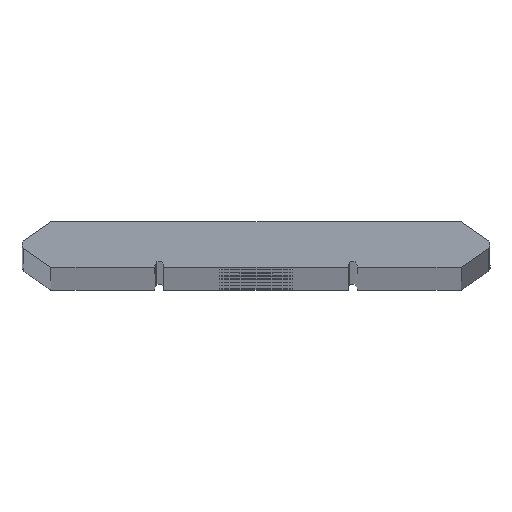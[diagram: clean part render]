
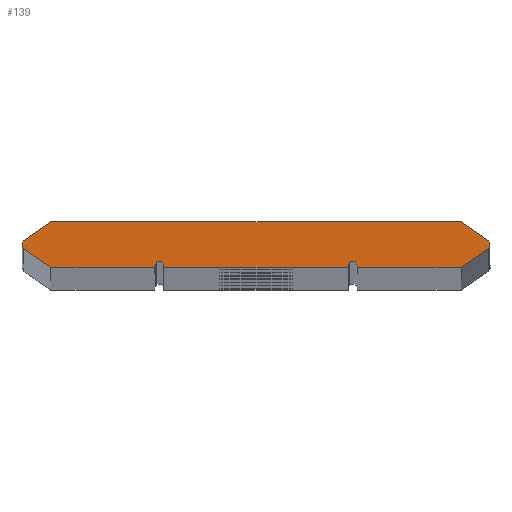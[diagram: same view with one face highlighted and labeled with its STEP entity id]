
A CAD part, top view. The second image highlights one B-rep face of the part: STEP entity #139.
In plain terms, the highlighted planar face has unit normal (0, 0, 1).
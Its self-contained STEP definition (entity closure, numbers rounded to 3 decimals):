
#139=ADVANCED_FACE('',(#349),#350,.F.);
#349=FACE_OUTER_BOUND('',#561,.T.);
#350=PLANE('',#562);
#561=EDGE_LOOP('',(#964,#965,#966,#967,#968,#969,#970,#971,#972,#973,#974,#975,#976,#977,#978,#979));
#562=AXIS2_PLACEMENT_3D('',#980,#981,#982);
#964=ORIENTED_EDGE('',*,*,#992,.F.);
#965=ORIENTED_EDGE('',*,*,#1059,.F.);
#966=ORIENTED_EDGE('',*,*,#1075,.F.);
#967=ORIENTED_EDGE('',*,*,#1077,.F.);
#968=ORIENTED_EDGE('',*,*,#1079,.F.);
#969=ORIENTED_EDGE('',*,*,#1081,.F.);
#970=ORIENTED_EDGE('',*,*,#1083,.F.);
#971=ORIENTED_EDGE('',*,*,#1085,.F.);
#972=ORIENTED_EDGE('',*,*,#1087,.F.);
#973=ORIENTED_EDGE('',*,*,#1089,.F.);
#974=ORIENTED_EDGE('',*,*,#1091,.F.);
#975=ORIENTED_EDGE('',*,*,#1093,.F.);
#976=ORIENTED_EDGE('',*,*,#1095,.F.);
#977=ORIENTED_EDGE('',*,*,#1097,.F.);
#978=ORIENTED_EDGE('',*,*,#1099,.F.);
#979=ORIENTED_EDGE('',*,*,#1011,.F.);
#980=CARTESIAN_POINT('',(24.922,0.,0.));
#981=DIRECTION('',(0.,0.0,-1.0));
#982=DIRECTION('',(0.0,1.0,0.0));
#992=EDGE_CURVE('',#1108,#1109,#1110,.T.);
#1011=EDGE_CURVE('',#1109,#1146,#1147,.T.);
#1059=EDGE_CURVE('',#1241,#1108,#1242,.T.);
#1075=EDGE_CURVE('',#1271,#1241,#1272,.T.);
#1077=EDGE_CURVE('',#1274,#1271,#1275,.T.);
#1079=EDGE_CURVE('',#1277,#1274,#1278,.T.);
#1081=EDGE_CURVE('',#1280,#1277,#1281,.T.);
#1083=EDGE_CURVE('',#1283,#1280,#1284,.T.);
#1085=EDGE_CURVE('',#1286,#1283,#1287,.T.);
#1087=EDGE_CURVE('',#1289,#1286,#1290,.T.);
#1089=EDGE_CURVE('',#1292,#1289,#1293,.T.);
#1091=EDGE_CURVE('',#1295,#1292,#1296,.T.);
#1093=EDGE_CURVE('',#1298,#1295,#1299,.T.);
#1095=EDGE_CURVE('',#1301,#1298,#1302,.T.);
#1097=EDGE_CURVE('',#1304,#1301,#1305,.T.);
#1099=EDGE_CURVE('',#1146,#1304,#1307,.T.);
#1108=VERTEX_POINT('',#1316);
#1109=VERTEX_POINT('',#1317);
#1110=LINE('',#1318,#1319);
#1146=VERTEX_POINT('',#1358);
#1147=LINE('',#1359,#1360);
#1241=VERTEX_POINT('',#1456);
#1242=CIRCLE('',#1457,0.498);
#1271=VERTEX_POINT('',#1497);
#1272=LINE('',#1498,#1499);
#1274=VERTEX_POINT('',#1502);
#1275=LINE('',#1503,#1504);
#1277=VERTEX_POINT('',#1507);
#1278=LINE('',#1508,#1509);
#1280=VERTEX_POINT('',#1512);
#1281=CIRCLE('',#1513,0.5);
#1283=VERTEX_POINT('',#1516);
#1284=LINE('',#1517,#1518);
#1286=VERTEX_POINT('',#1521);
#1287=LINE('',#1522,#1523);
#1289=VERTEX_POINT('',#1526);
#1290=LINE('',#1527,#1528);
#1292=VERTEX_POINT('',#1531);
#1293=CIRCLE('',#1532,0.5);
#1295=VERTEX_POINT('',#1535);
#1296=LINE('',#1536,#1537);
#1298=VERTEX_POINT('',#1540);
#1299=LINE('',#1541,#1542);
#1301=VERTEX_POINT('',#1545);
#1302=LINE('',#1546,#1547);
#1304=VERTEX_POINT('',#1550);
#1305=CIRCLE('',#1551,0.498);
#1307=LINE('',#1554,#1555);
#1316=CARTESIAN_POINT('',(-25.208,0.408,0.));
#1317=CARTESIAN_POINT('',(-22.27,2.465,0.));
#1318=CARTESIAN_POINT('',(-25.208,0.408,0.));
#1319=VECTOR('',#1568,1.0);
#1358=CARTESIAN_POINT('',(22.27,2.465,0.));
#1359=CARTESIAN_POINT('',(-22.27,2.465,0.));
#1360=VECTOR('',#1617,1.0);
#1456=CARTESIAN_POINT('',(-25.208,-0.408,0.));
#1457=AXIS2_PLACEMENT_3D('',#1755,#1756,#1757);
#1497=CARTESIAN_POINT('',(-22.27,-2.465,0.));
#1498=CARTESIAN_POINT('',(-22.27,-2.465,0.));
#1499=VECTOR('',#1781,1.0);
#1502=CARTESIAN_POINT('',(-11.0,-2.465,0.));
#1503=CARTESIAN_POINT('',(-11.0,-2.465,0.));
#1504=VECTOR('',#1783,1.0);
#1507=CARTESIAN_POINT('',(-11.0,-2.265,0.));
#1508=CARTESIAN_POINT('',(-11.0,-2.265,0.));
#1509=VECTOR('',#1785,1.0);
#1512=CARTESIAN_POINT('',(-10.0,-2.265,0.));
#1513=AXIS2_PLACEMENT_3D('',#1787,#1788,#1789);
#1516=CARTESIAN_POINT('',(-10.0,-2.465,0.));
#1517=CARTESIAN_POINT('',(-10.0,-2.465,0.));
#1518=VECTOR('',#1791,1.0);
#1521=CARTESIAN_POINT('',(10.0,-2.465,0.));
#1522=CARTESIAN_POINT('',(10.0,-2.465,0.));
#1523=VECTOR('',#1793,1.0);
#1526=CARTESIAN_POINT('',(10.0,-2.265,0.));
#1527=CARTESIAN_POINT('',(10.0,-2.265,0.));
#1528=VECTOR('',#1795,1.0);
#1531=CARTESIAN_POINT('',(11.0,-2.265,0.));
#1532=AXIS2_PLACEMENT_3D('',#1797,#1798,#1799);
#1535=CARTESIAN_POINT('',(11.0,-2.465,0.));
#1536=CARTESIAN_POINT('',(11.0,-2.465,0.));
#1537=VECTOR('',#1801,1.0);
#1540=CARTESIAN_POINT('',(22.27,-2.465,0.));
#1541=CARTESIAN_POINT('',(22.27,-2.465,0.));
#1542=VECTOR('',#1803,1.0);
#1545=CARTESIAN_POINT('',(25.208,-0.408,0.));
#1546=CARTESIAN_POINT('',(25.208,-0.408,0.));
#1547=VECTOR('',#1805,1.0);
#1550=CARTESIAN_POINT('',(25.208,0.408,0.));
#1551=AXIS2_PLACEMENT_3D('',#1807,#1808,#1809);
#1554=CARTESIAN_POINT('',(22.27,2.465,0.));
#1555=VECTOR('',#1811,1.0);
#1568=DIRECTION('',(0.819,0.574,0.));
#1617=DIRECTION('',(1.0,0.0,0.));
#1755=CARTESIAN_POINT('',(-24.922,0.,0.));
#1756=DIRECTION('',(0.,0.0,-1.0));
#1757=DIRECTION('',(-1.0,0.0,0.));
#1781=DIRECTION('',(-0.819,0.574,0.));
#1783=DIRECTION('',(-1.0,0.0,0.));
#1785=DIRECTION('',(0.0,-1.0,0.0));
#1787=CARTESIAN_POINT('',(-10.5,-2.265,0.));
#1788=DIRECTION('',(0.,0.0,1.0));
#1789=DIRECTION('',(-1.0,0.0,0.));
#1791=DIRECTION('',(0.0,1.0,0.0));
#1793=DIRECTION('',(-1.0,0.0,0.));
#1795=DIRECTION('',(0.0,-1.0,0.0));
#1797=CARTESIAN_POINT('',(10.5,-2.265,0.));
#1798=DIRECTION('',(0.,0.0,1.0));
#1799=DIRECTION('',(-1.0,0.0,0.));
#1801=DIRECTION('',(0.0,1.0,0.0));
#1803=DIRECTION('',(-1.0,0.0,0.));
#1805=DIRECTION('',(-0.819,-0.574,0.));
#1807=CARTESIAN_POINT('',(24.922,0.,0.));
#1808=DIRECTION('',(0.,0.0,-1.0));
#1809=DIRECTION('',(-1.0,0.0,0.));
#1811=DIRECTION('',(0.819,-0.574,0.));
